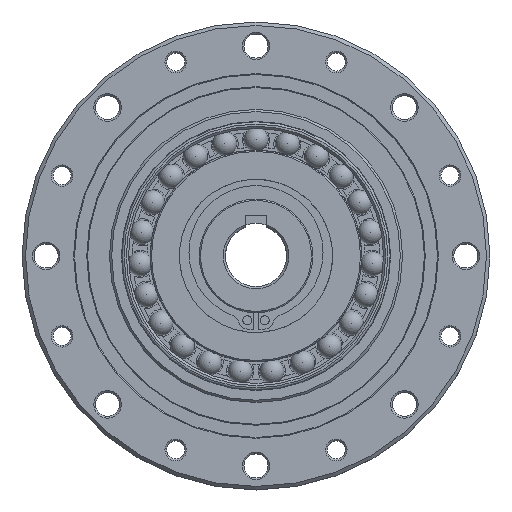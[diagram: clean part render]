
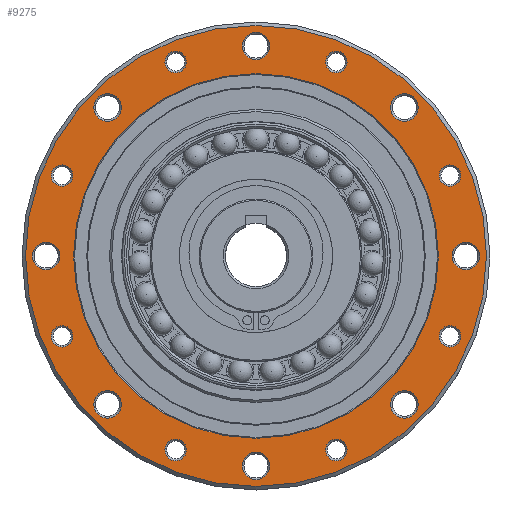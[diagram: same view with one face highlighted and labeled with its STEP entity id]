
A CAD part, top view. The second image highlights one B-rep face of the part: STEP entity #9275.
In plain terms, the highlighted planar face has unit normal (0, 0, 1).
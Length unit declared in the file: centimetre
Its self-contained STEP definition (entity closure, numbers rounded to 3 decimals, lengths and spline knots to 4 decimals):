
#2046=FACE_OUTER_BOUND($,#3210,.T.);
#2410=FACE_BOUND($,#3211,.T.);
#2411=FACE_BOUND($,#3212,.T.);
#2412=FACE_BOUND($,#3213,.T.);
#2413=FACE_BOUND($,#3214,.T.);
#2414=FACE_BOUND($,#3215,.T.);
#2415=FACE_BOUND($,#3216,.T.);
#2416=FACE_BOUND($,#3217,.T.);
#2417=FACE_BOUND($,#3218,.T.);
#2418=FACE_BOUND($,#3219,.T.);
#2419=FACE_BOUND($,#3220,.T.);
#2420=FACE_BOUND($,#3221,.T.);
#2421=FACE_BOUND($,#3222,.T.);
#2422=FACE_BOUND($,#3223,.T.);
#2423=FACE_BOUND($,#3224,.T.);
#2424=FACE_BOUND($,#3225,.T.);
#2425=FACE_BOUND($,#3226,.T.);
#2426=FACE_BOUND($,#3227,.T.);
#3210=EDGE_LOOP($,(#8047));
#3211=EDGE_LOOP($,(#8048));
#3212=EDGE_LOOP($,(#8049));
#3213=EDGE_LOOP($,(#8050));
#3214=EDGE_LOOP($,(#8051));
#3215=EDGE_LOOP($,(#8052));
#3216=EDGE_LOOP($,(#8053));
#3217=EDGE_LOOP($,(#8054));
#3218=EDGE_LOOP($,(#8055));
#3219=EDGE_LOOP($,(#8056));
#3220=EDGE_LOOP($,(#8057));
#3221=EDGE_LOOP($,(#8058));
#3222=EDGE_LOOP($,(#8059));
#3223=EDGE_LOOP($,(#8060));
#3224=EDGE_LOOP($,(#8061));
#3225=EDGE_LOOP($,(#8062));
#3226=EDGE_LOOP($,(#8063));
#3227=EDGE_LOOP($,(#8064));
#3972=CIRCLE($,#10409,5.27);
#3980=CIRCLE($,#10424,4.17);
#3983=CIRCLE($,#10430,0.315);
#4018=CIRCLE($,#10484,0.315);
#4020=CIRCLE($,#10488,0.2467);
#4022=CIRCLE($,#10492,0.315);
#4024=CIRCLE($,#10496,0.2467);
#4026=CIRCLE($,#10500,0.2467);
#4028=CIRCLE($,#10504,0.315);
#4030=CIRCLE($,#10508,0.2467);
#4032=CIRCLE($,#10512,0.315);
#4034=CIRCLE($,#10516,0.2467);
#4036=CIRCLE($,#10520,0.315);
#4038=CIRCLE($,#10524,0.2467);
#4040=CIRCLE($,#10528,0.315);
#4042=CIRCLE($,#10532,0.2467);
#4044=CIRCLE($,#10536,0.315);
#4046=CIRCLE($,#10540,0.2467);
#4696=VERTEX_POINT($,#15779);
#4704=VERTEX_POINT($,#15802);
#4707=VERTEX_POINT($,#15811);
#4742=VERTEX_POINT($,#15900);
#4744=VERTEX_POINT($,#15906);
#4746=VERTEX_POINT($,#15912);
#4748=VERTEX_POINT($,#15918);
#4750=VERTEX_POINT($,#15924);
#4752=VERTEX_POINT($,#15930);
#4754=VERTEX_POINT($,#15936);
#4756=VERTEX_POINT($,#15942);
#4758=VERTEX_POINT($,#15948);
#4760=VERTEX_POINT($,#15954);
#4762=VERTEX_POINT($,#15960);
#4764=VERTEX_POINT($,#15966);
#4766=VERTEX_POINT($,#15972);
#4768=VERTEX_POINT($,#15978);
#4770=VERTEX_POINT($,#15984);
#5804=EDGE_CURVE($,#4696,#4696,#3972,.T.);
#5812=EDGE_CURVE($,#4704,#4704,#3980,.T.);
#5815=EDGE_CURVE($,#4707,#4707,#3983,.T.);
#5850=EDGE_CURVE($,#4742,#4742,#4018,.T.);
#5852=EDGE_CURVE($,#4744,#4744,#4020,.T.);
#5854=EDGE_CURVE($,#4746,#4746,#4022,.T.);
#5856=EDGE_CURVE($,#4748,#4748,#4024,.T.);
#5858=EDGE_CURVE($,#4750,#4750,#4026,.T.);
#5860=EDGE_CURVE($,#4752,#4752,#4028,.T.);
#5862=EDGE_CURVE($,#4754,#4754,#4030,.T.);
#5864=EDGE_CURVE($,#4756,#4756,#4032,.T.);
#5866=EDGE_CURVE($,#4758,#4758,#4034,.T.);
#5868=EDGE_CURVE($,#4760,#4760,#4036,.T.);
#5870=EDGE_CURVE($,#4762,#4762,#4038,.T.);
#5872=EDGE_CURVE($,#4764,#4764,#4040,.T.);
#5874=EDGE_CURVE($,#4766,#4766,#4042,.T.);
#5876=EDGE_CURVE($,#4768,#4768,#4044,.T.);
#5878=EDGE_CURVE($,#4770,#4770,#4046,.T.);
#8047=ORIENTED_EDGE($,*,*,#5804,.F.);
#8048=ORIENTED_EDGE($,*,*,#5812,.F.);
#8049=ORIENTED_EDGE($,*,*,#5815,.F.);
#8050=ORIENTED_EDGE($,*,*,#5850,.F.);
#8051=ORIENTED_EDGE($,*,*,#5852,.F.);
#8052=ORIENTED_EDGE($,*,*,#5854,.F.);
#8053=ORIENTED_EDGE($,*,*,#5856,.F.);
#8054=ORIENTED_EDGE($,*,*,#5858,.F.);
#8055=ORIENTED_EDGE($,*,*,#5860,.F.);
#8056=ORIENTED_EDGE($,*,*,#5862,.F.);
#8057=ORIENTED_EDGE($,*,*,#5864,.F.);
#8058=ORIENTED_EDGE($,*,*,#5866,.F.);
#8059=ORIENTED_EDGE($,*,*,#5868,.F.);
#8060=ORIENTED_EDGE($,*,*,#5870,.F.);
#8061=ORIENTED_EDGE($,*,*,#5872,.F.);
#8062=ORIENTED_EDGE($,*,*,#5874,.F.);
#8063=ORIENTED_EDGE($,*,*,#5876,.F.);
#8064=ORIENTED_EDGE($,*,*,#5878,.F.);
#8697=PLANE($,#10542);
#9275=ADVANCED_FACE($,(#2046,#2410,#2411,#2412,#2413,#2414,#2415,#2416,
#2417,#2418,#2419,#2420,#2421,#2422,#2423,#2424,#2425,#2426),#8697,.T.);
#10409=AXIS2_PLACEMENT_3D($,#15780,#12983,#12984);
#10424=AXIS2_PLACEMENT_3D($,#15803,#13013,#13014);
#10430=AXIS2_PLACEMENT_3D($,#15812,#13025,#13026);
#10484=AXIS2_PLACEMENT_3D($,#15901,#13133,#13134);
#10488=AXIS2_PLACEMENT_3D($,#15907,#13141,#13142);
#10492=AXIS2_PLACEMENT_3D($,#15913,#13149,#13150);
#10496=AXIS2_PLACEMENT_3D($,#15919,#13157,#13158);
#10500=AXIS2_PLACEMENT_3D($,#15925,#13165,#13166);
#10504=AXIS2_PLACEMENT_3D($,#15931,#13173,#13174);
#10508=AXIS2_PLACEMENT_3D($,#15937,#13181,#13182);
#10512=AXIS2_PLACEMENT_3D($,#15943,#13189,#13190);
#10516=AXIS2_PLACEMENT_3D($,#15949,#13197,#13198);
#10520=AXIS2_PLACEMENT_3D($,#15955,#13205,#13206);
#10524=AXIS2_PLACEMENT_3D($,#15961,#13213,#13214);
#10528=AXIS2_PLACEMENT_3D($,#15967,#13221,#13222);
#10532=AXIS2_PLACEMENT_3D($,#15973,#13229,#13230);
#10536=AXIS2_PLACEMENT_3D($,#15979,#13237,#13238);
#10540=AXIS2_PLACEMENT_3D($,#15985,#13245,#13246);
#10542=AXIS2_PLACEMENT_3D($,#15987,#13249,#13250);
#12983=DIRECTION('center_axis',(0.,0.,
-1.));
#12984=DIRECTION('ref_axis',(0.,-1.,0.));
#13013=DIRECTION('center_axis',(0.,0.,
1.));
#13014=DIRECTION('ref_axis',(0.,-1.,0.));
#13025=DIRECTION('center_axis',(0.,0.,
1.));
#13026=DIRECTION('ref_axis',(-1.,0.,0.));
#13133=DIRECTION('center_axis',(0.,0.,
1.));
#13134=DIRECTION('ref_axis',(-1.,0.,0.));
#13141=DIRECTION('center_axis',(0.,0.,
1.));
#13142=DIRECTION('ref_axis',(-1.,0.,0.));
#13149=DIRECTION('center_axis',(0.,0.,
1.));
#13150=DIRECTION('ref_axis',(-1.,0.,0.));
#13157=DIRECTION('center_axis',(0.,0.,
1.));
#13158=DIRECTION('ref_axis',(-1.,0.,0.));
#13165=DIRECTION('center_axis',(0.,0.,
1.));
#13166=DIRECTION('ref_axis',(-1.,0.,0.));
#13173=DIRECTION('center_axis',(0.,0.,
1.));
#13174=DIRECTION('ref_axis',(-1.,0.,0.));
#13181=DIRECTION('center_axis',(0.,0.,
1.));
#13182=DIRECTION('ref_axis',(-1.,0.,0.));
#13189=DIRECTION('center_axis',(0.,0.,
1.));
#13190=DIRECTION('ref_axis',(-1.,0.,0.));
#13197=DIRECTION('center_axis',(0.,0.,
1.));
#13198=DIRECTION('ref_axis',(-1.,0.,0.));
#13205=DIRECTION('center_axis',(0.,0.,
1.));
#13206=DIRECTION('ref_axis',(-1.,0.,0.));
#13213=DIRECTION('center_axis',(0.,0.,
1.));
#13214=DIRECTION('ref_axis',(-1.,0.,0.));
#13221=DIRECTION('center_axis',(0.,0.,
1.));
#13222=DIRECTION('ref_axis',(-1.,0.,0.));
#13229=DIRECTION('center_axis',(0.,0.,
1.));
#13230=DIRECTION('ref_axis',(-1.,0.,0.));
#13237=DIRECTION('center_axis',(0.,0.,
1.));
#13238=DIRECTION('ref_axis',(-1.,0.,0.));
#13245=DIRECTION('center_axis',(0.,0.,
1.));
#13246=DIRECTION('ref_axis',(-1.,0.,0.));
#13249=DIRECTION('center_axis',(0.,0.,
1.));
#13250=DIRECTION('ref_axis',(1.,0.,0.));
#15779=CARTESIAN_POINT('',(0.,5.27,4.6));
#15780=CARTESIAN_POINT('Origin',(0.,0.,
4.6));
#15802=CARTESIAN_POINT('',(0.,4.17,4.6));
#15803=CARTESIAN_POINT('Origin',(0.,0.,
4.6));
#15811=CARTESIAN_POINT('',(0.315,4.8,4.6));
#15812=CARTESIAN_POINT('Origin',(0.,4.8,4.6));
#15900=CARTESIAN_POINT('',(5.115,0.,4.6));
#15901=CARTESIAN_POINT('Origin',(4.8,0.,4.6));
#15906=CARTESIAN_POINT('',(4.6813,1.8369,4.6));
#15907=CARTESIAN_POINT('Origin',(4.4346,1.8369,4.6));
#15912=CARTESIAN_POINT('',(3.7091,3.3941,4.6));
#15913=CARTESIAN_POINT('Origin',(3.3941,3.3941,4.6));
#15918=CARTESIAN_POINT('',(2.0836,4.4346,4.6));
#15919=CARTESIAN_POINT('Origin',(1.8369,4.4346,4.6));
#15924=CARTESIAN_POINT('',(-1.5902,4.4346,4.6));
#15925=CARTESIAN_POINT('Origin',(-1.8369,4.4346,4.6));
#15930=CARTESIAN_POINT('',(-3.0791,3.3941,4.6));
#15931=CARTESIAN_POINT('Origin',(-3.3941,3.3941,4.6));
#15936=CARTESIAN_POINT('',(-4.1879,1.8369,4.6));
#15937=CARTESIAN_POINT('Origin',(-4.4346,1.8369,4.6));
#15942=CARTESIAN_POINT('',(-4.485,0.,4.6));
#15943=CARTESIAN_POINT('Origin',(-4.8,0.,4.6));
#15948=CARTESIAN_POINT('',(-4.1879,-1.8369,4.6));
#15949=CARTESIAN_POINT('Origin',(-4.4346,-1.8369,4.6));
#15954=CARTESIAN_POINT('',(-3.0791,-3.3941,4.6));
#15955=CARTESIAN_POINT('Origin',(-3.3941,-3.3941,4.6));
#15960=CARTESIAN_POINT('',(-1.5902,-4.4346,4.6));
#15961=CARTESIAN_POINT('Origin',(-1.8369,-4.4346,4.6));
#15966=CARTESIAN_POINT('',(0.315,-4.8,4.6));
#15967=CARTESIAN_POINT('Origin',(0.,-4.8,4.6));
#15972=CARTESIAN_POINT('',(2.0836,-4.4346,4.6));
#15973=CARTESIAN_POINT('Origin',(1.8369,-4.4346,4.6));
#15978=CARTESIAN_POINT('',(3.7091,-3.3941,4.6));
#15979=CARTESIAN_POINT('Origin',(3.3941,-3.3941,4.6));
#15984=CARTESIAN_POINT('',(4.6813,-1.8369,4.6));
#15985=CARTESIAN_POINT('Origin',(4.4346,-1.8369,4.6));
#15987=CARTESIAN_POINT('Origin',(0.,0.,
4.6));
